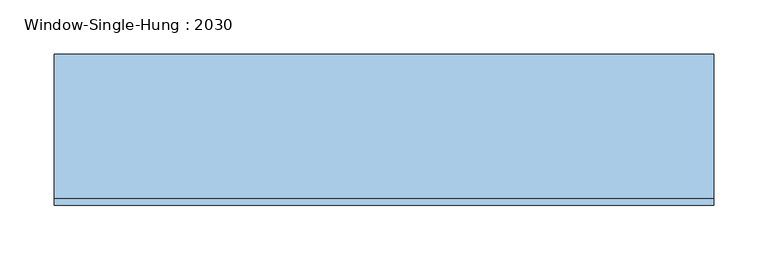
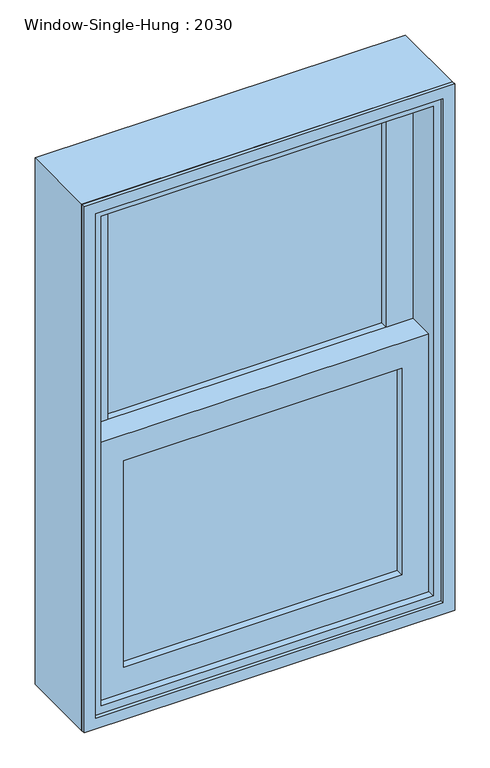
"""IFC4 building model written with IfcOpenShell, lengths in millimetres: window geometry, Window-Single-Hung : 2030."""

from ifc_helpers import new_model, si_unit, frame, origin, place, context, project, spatial, polyline, outline, extrude, source, transform, mapped, element, save


def window_single_hung_2030_9b69fde6(model_context):
    return source(origin(), model_context, "Body", "SweptSolid", [
        extrude(outline(polyline([(228.6, -9.525), (228.6, -15.875), (-228.6, -15.875), (-228.6, -9.525), (228.6, -9.525)])), frame((0.0, 0.0, 990.6), z_axis=(0.0, 0.0, 1.0), x_axis=(1.0, 0.0, 0.0)), (0.0, 0.0, 1.0), 358.775),
        extrude(outline(polyline([(-228.6, -22.225), (228.6, -22.225), (228.6, -28.575), (-228.6, -28.575), (-228.6, -22.225)])), frame((0.0, 0.0, 990.6), z_axis=(0.0, 0.0, 1.0), x_axis=(1.0, 0.0, 0.0)), (0.0, 0.0, 1.0), 358.775),
        extrude(outline(polyline([(228.6, 34.925), (228.6, 28.575), (-228.6, 28.575), (-228.6, 34.925), (228.6, 34.925)])), frame((0.0, 0.0, 1393.825), z_axis=(0.0, 0.0, 1.0), x_axis=(1.0, 0.0, 0.0)), (0.0, 0.0, 1.0), 358.775),
        extrude(outline(polyline([(-228.6, 22.225), (228.6, 22.225), (228.6, 15.875), (-228.6, 15.875), (-228.6, 22.225)])), frame((0.0, 0.0, 1393.825), z_axis=(0.0, 0.0, 1.0), x_axis=(1.0, 0.0, 0.0)), (0.0, 0.0, 1.0), 358.775),
        extrude(outline(polyline([(1393.825, -273.05), (946.15, -273.05), (946.15, 273.05), (1393.825, 273.05), (1393.825, -273.05)]), holes=[polyline([(1349.375, 228.6), (990.6, 228.6), (990.6, -228.6), (1349.375, -228.6), (1349.375, 228.6)])]), frame((0.0, -41.275, 0.0), z_axis=(0.0, 1.0, 0.0), x_axis=(0.0, 0.0, 1.0)), (0.0, 0.0, 1.0), 44.45),
        extrude(outline(polyline([(1797.05, -273.05), (1349.375, -273.05), (1349.375, 273.05), (1797.05, 273.05), (1797.05, -273.05)]), holes=[polyline([(1752.6, 228.6), (1393.825, 228.6), (1393.825, -228.6), (1752.6, -228.6), (1752.6, 228.6)])]), frame((0.0, 3.175, 0.0), z_axis=(0.0, 1.0, 0.0), x_axis=(0.0, 0.0, 1.0)), (0.0, 0.0, 1.0), 44.45),
        extrude(outline(polyline([(1828.8, -304.8), (914.4, -304.8), (914.4, 304.8), (1828.8, 304.8), (1828.8, -304.8)]), holes=[polyline([(1797.05, 273.05), (946.15, 273.05), (946.15, -273.05), (1797.05, -273.05), (1797.05, 273.05)])]), frame((0.0, -53.975, 0.0), z_axis=(0.0, 1.0, 0.0), x_axis=(0.0, 0.0, 1.0)), (0.0, 0.0, 1.0), 133.35),
        extrude(outline(polyline([(1828.8, 304.8), (1828.8, -304.8), (914.4, -304.8), (914.4, 304.8), (1828.8, 304.8)]), holes=[polyline([(1809.75, 285.75), (933.45, 285.75), (933.45, -285.75), (1809.75, -285.75), (1809.75, 285.75)])]), frame((0.0, -60.325, 0.0), z_axis=(0.0, 1.0, 0.0), x_axis=(0.0, 0.0, 1.0)), (0.0, 0.0, 1.0), 6.35),
    ])


if __name__ == "__main__":
    model = new_model("IFC4")
    model_context = context("Model", 3, world=origin())
    ifc_project = project(units=[si_unit("LENGTHUNIT", "METRE", prefix="MILLI")], contexts=[model_context])
    site = spatial("IfcSite", under=ifc_project)
    building = spatial("IfcBuilding", under=site)
    placement = place(None, origin())
    window_single_hung_2030_shape = window_single_hung_2030_9b69fde6(model_context)
    element("IfcWindow", 1, ObjectType="Window-Single-Hung : 2030", at=placement, inside=building, context=model_context, shape_type="MappedRepresentation", body=[
        mapped(window_single_hung_2030_shape, transform((0.0, 0.0, 0.0), x_axis=(1.0, 0.0, 0.0), y_axis=(0.0, 1.0, 0.0), z_axis=(0.0, 0.0, 1.0))),
    ])
    save(model, "model.ifc")
